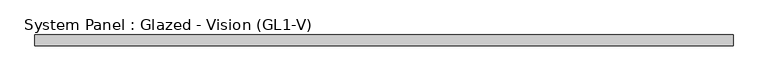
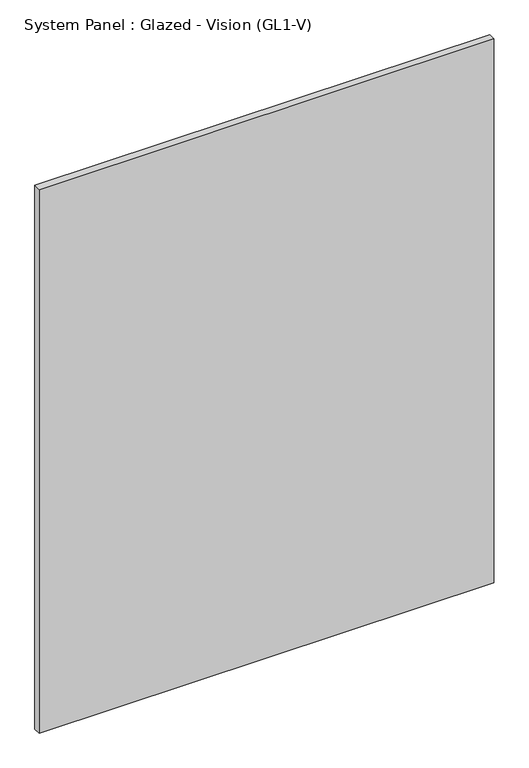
"""IFC4 building model written with IfcOpenShell, lengths in millimetres: plate geometry, System Panel : Glazed - Vision (GL1-V)."""

from ifc_helpers import new_model, si_unit, origin, origin_with_axes, place, context, project, spatial, polyline, outline, extrude, source, transform, mapped, element, save


def system_panel_glazed_vision_gl1_v_e4a4eab5(model_context):
    return source(origin(), model_context, "Body", "SweptSolid", [
        extrude(outline(polyline([(813.9193889, -25.4), (-813.9193889, -25.4), (-813.9193889, 0.0), (813.9193889, 0.0), (813.9193889, -25.4)])), origin_with_axes(), (0.0, 0.0, 1.0), 2057.4),
    ])


if __name__ == "__main__":
    model = new_model("IFC4")
    model_context = context("Model", 3, world=origin())
    ifc_project = project(units=[si_unit("LENGTHUNIT", "METRE", prefix="MILLI")], contexts=[model_context])
    site = spatial("IfcSite", under=ifc_project)
    building = spatial("IfcBuilding", under=site)
    placement = place(None, origin())
    system_panel_glazed_vision_gl1_v_shape = system_panel_glazed_vision_gl1_v_e4a4eab5(model_context)
    element("IfcPlate", 1, ObjectType="System Panel : Glazed - Vision (GL1-V)", at=placement, inside=building, context=model_context, shape_type="MappedRepresentation", body=[
        mapped(system_panel_glazed_vision_gl1_v_shape, transform((0.0, 0.0, 0.0), x_axis=(1.0, 0.0, 0.0), y_axis=(0.0, 1.0, 0.0), z_axis=(0.0, 0.0, 1.0))),
    ])
    save(model, "model.ifc")
